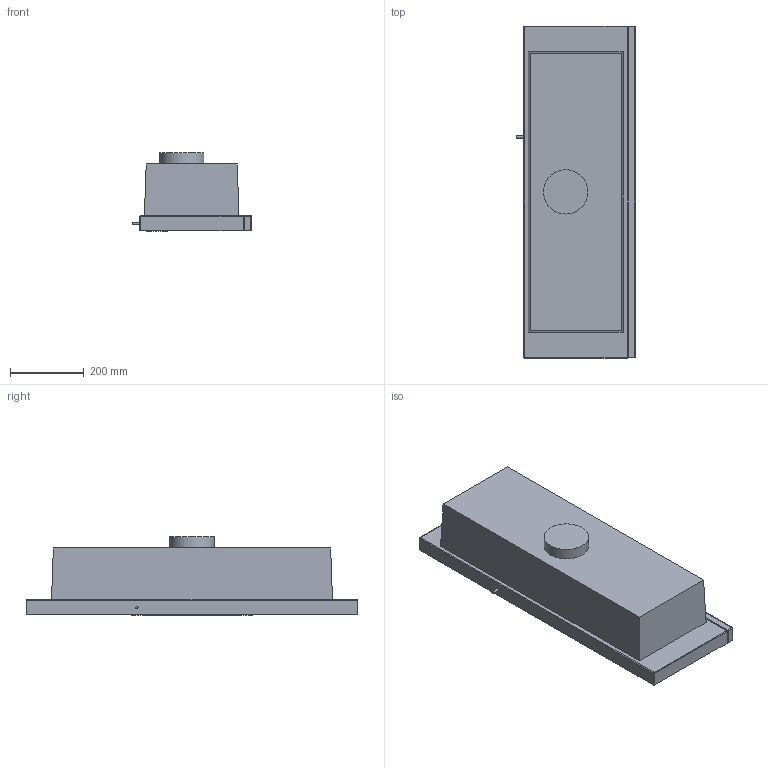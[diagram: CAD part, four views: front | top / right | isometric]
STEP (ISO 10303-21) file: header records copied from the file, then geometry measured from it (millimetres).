
FILE_DESCRIPTION(/* description */ (''),/* implementation_level */ '2;1');
FILE_NAME(/* name */ 'KSET92E.stp',/* time_stamp */ '2021-06-07T11:50:36+02:00',/* author */ (''),/* organization */ (''),/* preprocessor_version */ 'ST-DEVELOPER v16',/* originating_system */ 'SIEMENS PLM Software NX 11.0',/* authorisation */ '');
FILE_SCHEMA (('AUTOMOTIVE_DESIGN { 1 0 10303 214 3 1 1 1 }'));
Length unit declared in the file: millimetre
Products named in the file (1): mart147886A0bkcc
Bounding box: 321.6 x 898 x 213.5 mm (x, y, z)
Volume: 37604808 mm3; surface area: 1206609.9 mm2
Topology: 16 solids, 16 shells, 187 faces, 427 edges, 271 vertices
Faces by surface type: plane 111, cylinder 54, extrusion 11, sphere 7, torus 4
Full cylindrical faces by diameter (mm): 4.608 x6, 6 x1, 120 x1
Entity records: 5495 total; most frequent: CARTESIAN_POINT 1171, DIRECTION 865, ORIENTED_EDGE 820, EDGE_CURVE 410, AXIS2_PLACEMENT_3D 290, VECTOR 285, LINE 274, VERTEX_POINT 270
